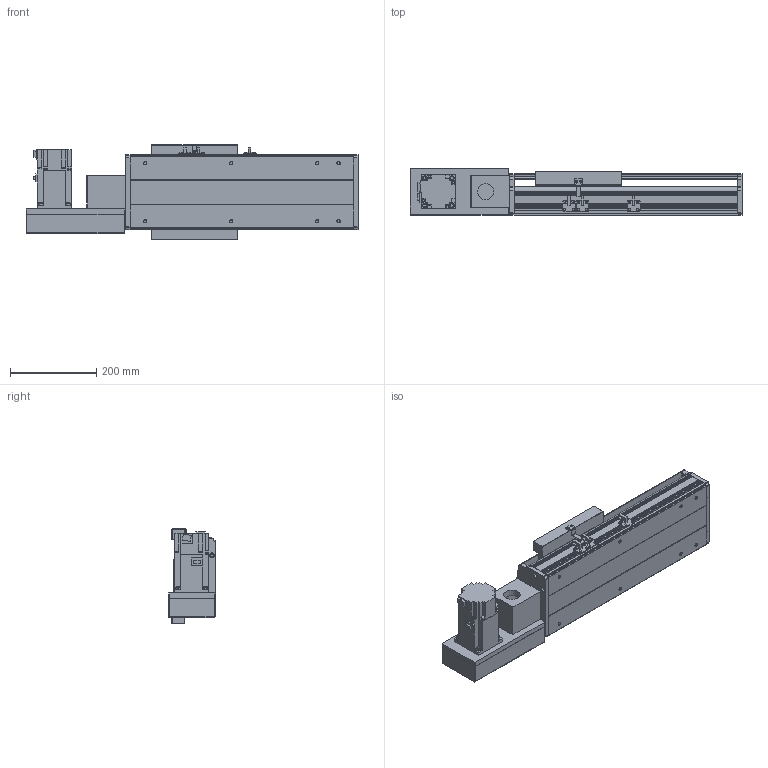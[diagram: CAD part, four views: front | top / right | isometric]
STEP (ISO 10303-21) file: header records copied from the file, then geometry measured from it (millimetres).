
FILE_DESCRIPTION(/* description */ ('STEP AP214'),/* implementation_level */ '2;1');
FILE_NAME(/* name */ 'PBS200-P40-S150-L-T75-C1-N(0)',/* time_stamp */ '2022-06-11T07:47:20+02:00',/* author */ ('License CC BY-ND 4.0'),/* organization */ ('CADENAS'),/* preprocessor_version */ 'ST-DEVELOPER v18.102',/* originating_system */ 'PARTsolutions',/* authorisation */ ' ');
FILE_SCHEMA (('AUTOMOTIVE_DESIGN {1 0 10303 214 3 1 1}'));
Length unit declared in the file: millimetre
Products named in the file (7): PBS200-P40-S150-L-T75-C1-N(0); PBS200_sensor; PBS200_plant; PBS200_sliser; T75-p1; PBS200T-L_motors; PBS200-S150()_body
Assembly tree (8 placements, depth 2):
  PBS200-P40-S150-L-T75-C1-N(0)
    PBS200_sensor  x3
    PBS200_plant
    PBS200_sliser
    T75-p1
    PBS200T-L_motors
    PBS200-S150()_body
Bounding box: 772 x 109 x 221 mm (x, y, z)
Volume: 5929111.1 mm3; surface area: 982935.6 mm2
Topology: 8 solids, 8 shells, 896 faces, 2334 edges, 1524 vertices
Faces by surface type: plane 566, cylinder 290, cone 40
Full cylindrical faces by diameter (mm): 2.459 x6, 3.242 x4, 4.5 x6, 4.917 x4, 5 x6, 6 x7, 6.6 x8, 6.647 x12, 8 x6, 10 x4, 12 x8, 38 x2, 40 x1, 70 x1
Entity records: 24101 total; most frequent: DIRECTION 4231, CARTESIAN_POINT 4120, ORIENTED_EDGE 3934, EDGE_CURVE 1967, AXIS2_PLACEMENT_3D 1459, VERTEX_POINT 1348, LINE 1313, VECTOR 1313
